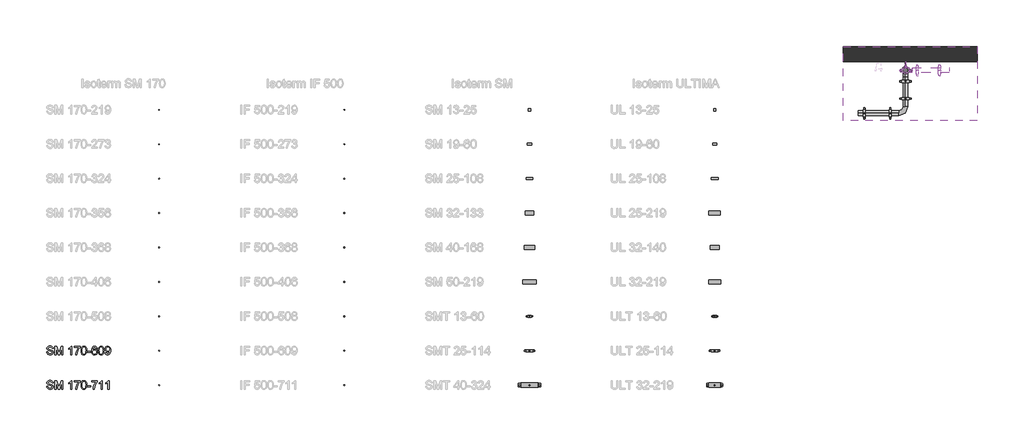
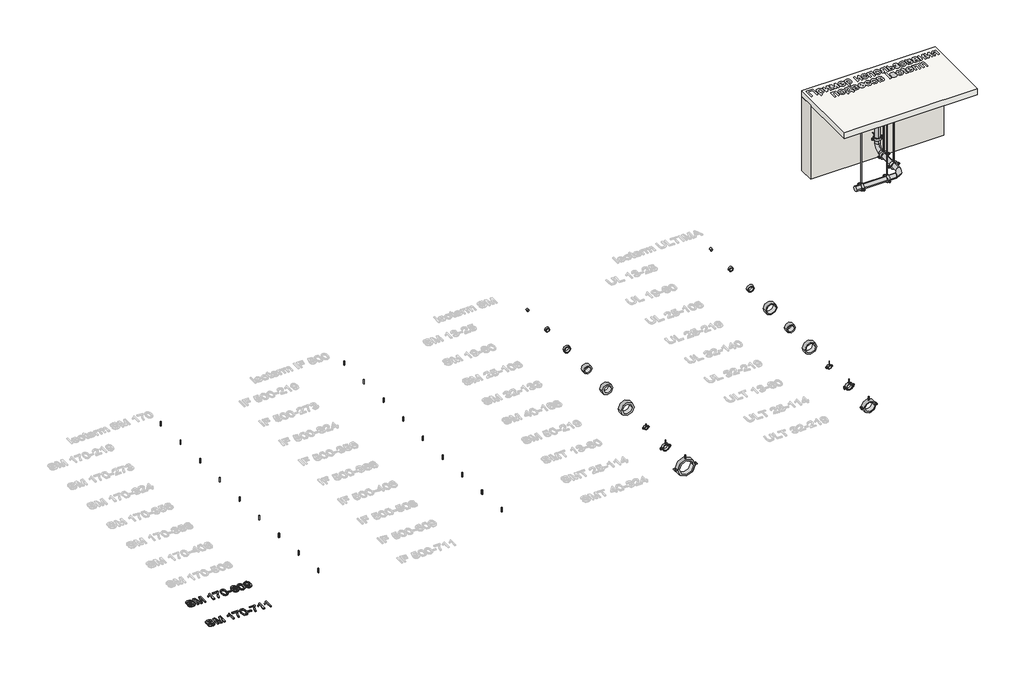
# One storey, part 1 of 10: 61 pipe fittings, 4 pipe segments, 2 proxies, 1 slab, 1 wall.
"""IFC4 building model written with IfcOpenShell, lengths in millimetres."""

from ifc_helpers import new_model, si_unit, point, frame, frame_2d, origin, origin_with_axes, place, context, project, spatial, polyline, circle_curve, trimmed, segment, composite_curve, outline, extrude, transform, mapped, element, save
from components import pipe_fitting_ea1120f8, pipe_fitting_9cc99f1b, pipe_fitting_f6f02d7e, pipe_fitting_10d38b48, pipe_fitting_dd198770, pipe_fitting_62ef14bb, pipe_fitting_85ec1d97, pipe_fitting_9936371b, pipe_fitting_645a91ac, pipe_fitting_05f07e14, pipe_fitting_db2d8663, pipe_fitting_be9057e6, pipe_fitting_1aa2fc2b, pipe_fitting_67ac7dcb, pipe_fitting_62d414c1, pipe_fitting_6f64aa49, pipe_fitting_854d4d4e, pipe_fitting_7255cf2c, pipe_fitting_8510a795, pipe_fitting_4c9d8eb7, pipe_fitting_b5d57670, pipe_fitting_b7a03728, pipe_fitting_ec2c8cdd

model = new_model("IFC4")

# Units and contexts
model_context = context("Model", 3, world=origin())
ifc_project = project(units=[si_unit("LENGTHUNIT", "METRE", prefix="MILLI")], contexts=[model_context])

# Site, building, storey
site = spatial("IfcSite", under=ifc_project)
building = spatial("IfcBuilding", under=site)
storey = spatial("IfcBuildingStorey", under=building, Name="Этаж 01", Elevation=0.0)

# Proxies
placement = place(None, origin())
element("IfcBuildingElementProxy", 1, Name="200 мм Arial", ObjectType="200 мм Arial", at=placement, inside=storey, context=model_context, shape_type="SweptSolid", body=[
    extrude(outline(polyline([(362.1098597, -6325.9144615), (387.2239373, -6325.9144615), (395.3173412, -6351.0530645), (403.4475333, -6359.9435461), (415.084867, -6366.9455667), (429.3096375, -6371.4889093), (445.2021397, -6373.0033569), (471.4443887, -6368.4170947), (488.3914859, -6355.811005), (493.9587668, -6338.9620096), (489.7894375, -6323.2902366), (483.4373417, -6317.091425), (472.7197129, -6311.8858947), (436.1522426, -6302.2964374), (396.7888691, -6289.9110769), (384.2870127, -6281.4620537), (375.427188, -6271.2226715), (370.1480813, -6259.4136595), (368.3883791, -6246.2557468), (370.5650143, -6231.5465984), (377.0949197, -6217.8307313), (387.8064171, -6206.2056603), (402.5278283, -6197.7688998), (420.1984268, -6192.636946), (439.7574862, -6190.9262947), (460.9474891, -6192.7166538), (479.4887417, -6198.0877309), (494.7190563, -6206.9291615), (505.9762453, -6219.130581), (513.1008933, -6233.9317), (515.9335846, -6250.5722289), (490.8195071, -6250.5722289), (486.2087194, -6235.5871689), (476.5947366, -6224.7714383), (461.5728885, -6218.2231388), (440.7385048, -6216.0403723), (419.4136118, -6218.1986133), (404.7841712, -6224.6733364), (396.3228853, -6234.2014801), (393.5024567, -6245.5199828), (395.5012822, -6255.1707538), (401.4977587, -6262.9330639), (415.6734782, -6269.8737709), (442.5043384, -6276.9616307), (486.9444834, -6289.5677204), (501.2612244, -6298.6789311), (511.2492206, -6309.9238574), (517.1169384, -6323.179872), (519.0728443, -6338.3243475), (516.8226328, -6353.8060481), (510.0719982, -6368.3680437), (499.096852, -6380.900557), (484.1731057, -6390.2938107), (466.2265957, -6396.1615285), (446.1831584, -6398.1174344), (421.5779843, -6396.0082443), (401.3260804, -6389.680674), (385.1944549, -6379.110198), (372.9501159, -6364.2722909), (365.0897039, -6346.1970222), (362.1098597, -6325.9144615)])), origin_with_axes(), (0.0, 0.0, 1.0), 20.0),
    extrude(outline(polyline([(556.7439606, -6394.9781747), (556.7439606, -6194.0655544), (599.9578323, -6194.0655544), (641.0625139, -6335.6755971), (649.3521216, -6365.2533095), (658.3284422, -6333.2230505), (698.7464108, -6194.0655544), (741.9602825, -6194.0655544), (741.9602825, -6394.9781747), (716.8462049, -6394.9781747), (716.8462049, -6219.179632), (666.3727952, -6394.9781747), (632.3314479, -6394.9781747), (581.8580382, -6219.179632), (581.8580382, -6394.9781747), (556.7439606, -6394.9781747)])), origin_with_axes(), (0.0, 0.0, 1.0), 20.0),
    extrude(outline(polyline([(949.1514222, -6394.9781747), (924.0373446, -6394.9781747), (924.0373446, -6238.4075976), (900.2476423, -6255.3546948), (873.8091896, -6268.0343609), (873.8091896, -6244.2937095), (910.6219145, -6220.7983127), (924.0925269, -6207.2234671), (932.9646144, -6194.0655544), (949.1514222, -6194.0655544), (949.1514222, -6394.9781747)])), origin_with_axes(), (0.0, 0.0, 1.0), 20.0),
    extrude(outline(polyline([(1008.7973563, -6222.3188917), (1008.7973563, -6197.2048141), (1140.6462634, -6197.2048141), (1140.6462634, -6217.5119003), (1121.8536248, -6241.2954712), (1103.2449272, -6271.5415026), (1086.8312589, -6305.4908794), (1074.623708, -6340.3844866), (1065.3040308, -6394.9781747), (1040.1899532, -6394.9781747), (1042.9061486, -6369.091545), (1050.171818, -6338.3243475), (1061.7907577, -6305.7116086), (1077.566764, -6274.2883548), (1095.9853892, -6245.8817334), (1115.5321859, -6222.3188917), (1008.7973563, -6222.3188917)])), origin_with_axes(), (0.0, 0.0, 1.0), 20.0),
    extrude(outline(polyline([(1162.6210812, -6296.1405454), (1164.4666226, -6263.9815276), (1170.0032466, -6238.3340212), (1179.175771, -6218.8056186), (1191.9290135, -6205.0039124), (1208.3549446, -6196.8001439), (1228.5455348, -6194.0655544), (1244.021104, -6195.6842352), (1257.8779925, -6200.5402775), (1269.4662754, -6208.4436091), (1278.1360277, -6219.2041574), (1289.9082516, -6248.9290226), (1294.4699883, -6296.1405454), (1292.6428411, -6328.1156221), (1287.1613993, -6353.7018149), (1278.0440572, -6373.2486115), (1265.3092088, -6387.1055), (1248.8464895, -6395.3644508), (1228.5455348, -6398.1174344), (1202.4504386, -6393.3349685), (1182.6338618, -6378.9875707), (1173.8782703, -6363.8584236), (1167.6242764, -6345.007537), (1162.6210812, -6296.1405454)]), holes=[polyline([(1187.7351588, -6296.0914944), (1190.6782147, -6335.5958893), (1199.5073826, -6358.4597553), (1212.6530326, -6369.3674565), (1228.5455348, -6373.0033569), (1244.438037, -6369.3551938), (1257.5836869, -6358.4107044), (1266.4128548, -6335.5345757), (1269.3559108, -6296.0914944), (1266.5109567, -6257.4761477), (1257.9760944, -6234.434472), (1244.8549699, -6222.993342), (1228.2512292, -6219.179632), (1212.5304052, -6222.5396209), (1199.8997901, -6232.6195875), (1190.7763166, -6257.0960029), (1187.7351588, -6296.0914944)])]), origin_with_axes(), (0.0, 0.0, 1.0), 20.0),
    extrude(outline(polyline([(1310.1662868, -6335.3322406), (1310.1662868, -6310.218163), (1388.6477791, -6310.218163), (1388.6477791, -6335.3322406), (1310.1662868, -6335.3322406)])), origin_with_axes(), (0.0, 0.0, 1.0), 20.0),
    extrude(outline(polyline([(1539.3322443, -6247.4329692), (1514.2181668, -6250.5722289), (1504.7022858, -6229.6274806), (1493.3102067, -6221.7915941), (1479.5391573, -6219.179632), (1456.8776264, -6225.2619476), (1447.4414533, -6234.8697991), (1439.7343255, -6248.0951568), (1434.5287952, -6266.8019562), (1432.5974148, -6292.8541329), (1442.6712501, -6281.1003031), (1454.7439109, -6272.8168269), (1468.1409469, -6267.9056022), (1482.1879077, -6266.2685273), (1505.3889989, -6270.744425), (1524.8622192, -6284.1721178), (1538.0691828, -6304.6876704), (1542.471504, -6330.4271473), (1540.3991021, -6348.4104455), (1534.1818964, -6365.0816312), (1524.3349216, -6379.2205626), (1511.3732127, -6389.6070976), (1495.8853807, -6395.9898502), (1478.4600368, -6398.1174344), (1449.9675763, -6392.4765772), (1427.2753886, -6375.5540054), (1418.6163661, -6362.4451436), (1412.4313501, -6345.6819874), (1407.4833372, -6301.1927914), (1412.9770417, -6251.1731028), (1419.8441723, -6232.0953557), (1429.4581551, -6216.97234), (1439.8784126, -6206.9506213), (1451.9602704, -6199.7922508), (1481.1087872, -6194.0655544), (1503.1449187, -6197.6094843), (1520.7909917, -6208.241274), (1533.1518268, -6225.1270576), (1539.3322443, -6247.4329692)]), holes=[polyline([(1432.5974148, -6330.0347398), (1438.4099503, -6351.7888285), (1453.8609941, -6367.5832288), (1476.4979995, -6373.0033569), (1493.0710834, -6370.195191), (1506.1002374, -6361.7706933), (1514.5431292, -6348.5269415), (1517.3574265, -6331.2610132), (1514.5799174, -6314.6879293), (1506.2473902, -6302.0511827), (1492.997507, -6294.0497493), (1475.4679299, -6291.3826049), (1458.9193715, -6294.0497493), (1445.0808771, -6302.0511827), (1435.7182804, -6314.3813609), (1432.5974148, -6330.0347398)])]), origin_with_axes(), (0.0, 0.0, 1.0), 20.0),
    extrude(outline(polyline([(1564.4463218, -6296.1405454), (1566.2918632, -6263.9815276), (1571.8284872, -6238.3340212), (1581.0010116, -6218.8056186), (1593.7542541, -6205.0039124), (1610.1801852, -6196.8001439), (1630.3707754, -6194.0655544), (1645.8463446, -6195.6842352), (1659.7032331, -6200.5402775), (1671.291516, -6208.4436091), (1679.9612683, -6219.2041574), (1691.7334922, -6248.9290226), (1696.2952289, -6296.1405454), (1694.4680817, -6328.1156221), (1688.9866399, -6353.7018149), (1679.8692978, -6373.2486115), (1667.1344494, -6387.1055), (1650.6717301, -6395.3644508), (1630.3707754, -6398.1174344), (1604.2756792, -6393.3349685), (1584.4591024, -6378.9875707), (1575.7035109, -6363.8584236), (1569.449517, -6345.007537), (1564.4463218, -6296.1405454)]), holes=[polyline([(1589.5603994, -6296.0914944), (1592.5034553, -6335.5958893), (1601.3326232, -6358.4597553), (1614.4782732, -6369.3674565), (1630.3707754, -6373.0033569), (1646.2632776, -6369.3551938), (1659.4089275, -6358.4107044), (1668.2380954, -6335.5345757), (1671.1811514, -6296.0914944), (1668.3361973, -6257.4761477), (1659.801335, -6234.434472), (1646.6802105, -6222.993342), (1630.0764698, -6219.179632), (1614.3556458, -6222.5396209), (1601.7250307, -6232.6195875), (1592.6015572, -6257.0960029), (1589.5603994, -6296.0914944)])]), origin_with_axes(), (0.0, 0.0, 1.0), 20.0),
    extrude(outline(polyline([(1721.4093064, -6344.7500196), (1746.523384, -6341.61076), (1750.8153406, -6355.8661873), (1757.8050985, -6365.5721406), (1767.3209794, -6371.1455528), (1779.1913052, -6373.0033569), (1799.5229168, -6368.2208909), (1813.3062288, -6355.443123), (1821.5222601, -6333.6154579), (1825.1520291, -6304.4792039), (1825.0048763, -6299.5741106), (1816.3044671, -6310.1936376), (1804.9185193, -6318.6058725), (1791.6686362, -6324.0873143), (1777.3764206, -6325.9144615), (1754.4757664, -6321.4508266), (1735.4133477, -6308.059922), (1722.555872, -6287.3726911), (1718.2700468, -6261.0200775), (1722.7643385, -6233.7968099), (1736.2472136, -6212.4596542), (1756.4991174, -6198.6640794), (1781.3004953, -6194.0655544), (1800.0318202, -6196.6897793), (1817.0831507, -6204.562454), (1831.3447093, -6217.2911711), (1841.7067189, -6234.483523), (1848.0158951, -6258.2486999), (1850.1189538, -6290.6958918), (1848.0220264, -6325.0989897), (1841.7312443, -6351.6907266), (1831.3017898, -6371.6728503), (1816.7888451, -6386.2471087), (1798.8178096, -6395.149853), (1778.0140828, -6398.1174344), (1756.542037, -6394.6164241), (1739.4109987, -6384.1133931), (1727.4303084, -6367.2705291), (1721.4093064, -6344.7500196)]), holes=[polyline([(1825.0048763, -6260.4314664), (1822.2948123, -6243.4107927), (1814.1646202, -6230.3141937), (1801.5462677, -6221.9632724), (1785.3717227, -6219.179632), (1768.5963037, -6222.1778702), (1755.1563481, -6231.172585), (1746.3271802, -6244.937503), (1743.3841243, -6262.2463509), (1746.1677647, -6277.7648397), (1754.518686, -6290.0827552), (1767.6275478, -6298.1209768), (1784.6850096, -6300.800384), (1800.730796, -6298.1209768), (1813.6495854, -6290.0827552), (1822.1660536, -6277.3111186), (1825.0048763, -6260.4314664)])]), origin_with_axes(), (0.0, 0.0, 1.0), 20.0),
])
element("IfcBuildingElementProxy", 2, Name="200 мм Arial", ObjectType="200 мм Arial", at=placement, inside=storey, context=model_context, shape_type="SweptSolid", body=[
    extrude(outline(polyline([(362.1098597, -7125.9144615), (387.2239373, -7125.9144615), (395.3173412, -7151.0530645), (403.4475333, -7159.9435461), (415.084867, -7166.9455667), (429.3096375, -7171.4889093), (445.2021397, -7173.0033569), (471.4443887, -7168.4170947), (488.3914859, -7155.811005), (493.9587668, -7138.9620096), (489.7894375, -7123.2902366), (483.4373417, -7117.091425), (472.7197129, -7111.8858947), (436.1522426, -7102.2964374), (396.7888691, -7089.9110769), (384.2870127, -7081.4620537), (375.427188, -7071.2226715), (370.1480813, -7059.4136595), (368.3883791, -7046.2557468), (370.5650143, -7031.5465984), (377.0949197, -7017.8307313), (387.8064171, -7006.2056603), (402.5278283, -6997.7688998), (420.1984268, -6992.636946), (439.7574862, -6990.9262947), (460.9474891, -6992.7166538), (479.4887417, -6998.0877309), (494.7190563, -7006.9291615), (505.9762453, -7019.130581), (513.1008933, -7033.9317), (515.9335846, -7050.5722289), (490.8195071, -7050.5722289), (486.2087194, -7035.5871689), (476.5947366, -7024.7714383), (461.5728885, -7018.2231388), (440.7385048, -7016.0403723), (419.4136118, -7018.1986133), (404.7841712, -7024.6733364), (396.3228853, -7034.2014801), (393.5024567, -7045.5199828), (395.5012822, -7055.1707538), (401.4977587, -7062.9330639), (415.6734782, -7069.8737709), (442.5043384, -7076.9616307), (486.9444834, -7089.5677204), (501.2612244, -7098.6789311), (511.2492206, -7109.9238574), (517.1169384, -7123.179872), (519.0728443, -7138.3243475), (516.8226328, -7153.8060481), (510.0719982, -7168.3680437), (499.096852, -7180.900557), (484.1731057, -7190.2938107), (466.2265957, -7196.1615285), (446.1831584, -7198.1174344), (421.5779843, -7196.0082443), (401.3260804, -7189.680674), (385.1944549, -7179.110198), (372.9501159, -7164.2722909), (365.0897039, -7146.1970222), (362.1098597, -7125.9144615)])), origin_with_axes(), (0.0, 0.0, 1.0), 20.0),
    extrude(outline(polyline([(556.7439606, -7194.9781747), (556.7439606, -6994.0655544), (599.9578323, -6994.0655544), (641.0625139, -7135.6755971), (649.3521216, -7165.2533095), (658.3284422, -7133.2230505), (698.7464108, -6994.0655544), (741.9602825, -6994.0655544), (741.9602825, -7194.9781747), (716.8462049, -7194.9781747), (716.8462049, -7019.179632), (666.3727952, -7194.9781747), (632.3314479, -7194.9781747), (581.8580382, -7019.179632), (581.8580382, -7194.9781747), (556.7439606, -7194.9781747)])), origin_with_axes(), (0.0, 0.0, 1.0), 20.0),
    extrude(outline(polyline([(949.1514222, -7194.9781747), (924.0373446, -7194.9781747), (924.0373446, -7038.4075976), (900.2476423, -7055.3546948), (873.8091896, -7068.0343609), (873.8091896, -7044.2937095), (910.6219145, -7020.7983127), (924.0925269, -7007.2234671), (932.9646144, -6994.0655544), (949.1514222, -6994.0655544), (949.1514222, -7194.9781747)])), origin_with_axes(), (0.0, 0.0, 1.0), 20.0),
    extrude(outline(polyline([(1008.7973563, -7022.3188917), (1008.7973563, -6997.2048141), (1140.6462634, -6997.2048141), (1140.6462634, -7017.5119003), (1121.8536248, -7041.2954712), (1103.2449272, -7071.5415026), (1086.8312589, -7105.4908794), (1074.623708, -7140.3844866), (1065.3040308, -7194.9781747), (1040.1899532, -7194.9781747), (1042.9061486, -7169.091545), (1050.171818, -7138.3243475), (1061.7907577, -7105.7116086), (1077.566764, -7074.2883548), (1095.9853892, -7045.8817334), (1115.5321859, -7022.3188917), (1008.7973563, -7022.3188917)])), origin_with_axes(), (0.0, 0.0, 1.0), 20.0),
    extrude(outline(polyline([(1162.6210812, -7096.1405454), (1164.4666226, -7063.9815276), (1170.0032466, -7038.3340212), (1179.175771, -7018.8056186), (1191.9290135, -7005.0039124), (1208.3549446, -6996.8001439), (1228.5455348, -6994.0655544), (1244.021104, -6995.6842352), (1257.8779925, -7000.5402775), (1269.4662754, -7008.4436091), (1278.1360277, -7019.2041574), (1289.9082516, -7048.9290226), (1294.4699883, -7096.1405454), (1292.6428411, -7128.1156221), (1287.1613993, -7153.7018149), (1278.0440572, -7173.2486115), (1265.3092088, -7187.1055), (1248.8464895, -7195.3644508), (1228.5455348, -7198.1174344), (1202.4504386, -7193.3349685), (1182.6338618, -7178.9875707), (1173.8782703, -7163.8584236), (1167.6242764, -7145.007537), (1162.6210812, -7096.1405454)]), holes=[polyline([(1187.7351588, -7096.0914944), (1190.6782147, -7135.5958893), (1199.5073826, -7158.4597553), (1212.6530326, -7169.3674565), (1228.5455348, -7173.0033569), (1244.438037, -7169.3551938), (1257.5836869, -7158.4107044), (1266.4128548, -7135.5345757), (1269.3559108, -7096.0914944), (1266.5109567, -7057.4761477), (1257.9760944, -7034.434472), (1244.8549699, -7022.993342), (1228.2512292, -7019.179632), (1212.5304052, -7022.5396209), (1199.8997901, -7032.6195875), (1190.7763166, -7057.0960029), (1187.7351588, -7096.0914944)])]), origin_with_axes(), (0.0, 0.0, 1.0), 20.0),
    extrude(outline(polyline([(1310.1662868, -7135.3322406), (1310.1662868, -7110.218163), (1388.6477791, -7110.218163), (1388.6477791, -7135.3322406), (1310.1662868, -7135.3322406)])), origin_with_axes(), (0.0, 0.0, 1.0), 20.0),
    extrude(outline(polyline([(1410.6225969, -7022.3188917), (1410.6225969, -6997.2048141), (1542.471504, -6997.2048141), (1542.471504, -7017.5119003), (1523.6788654, -7041.2954712), (1505.0701678, -7071.5415026), (1488.6564995, -7105.4908794), (1476.4489486, -7140.3844866), (1467.1292714, -7194.9781747), (1442.0151938, -7194.9781747), (1444.7313892, -7169.091545), (1451.9970586, -7138.3243475), (1463.6159983, -7105.7116086), (1479.3920045, -7074.2883548), (1497.8106298, -7045.8817334), (1517.3574265, -7022.3188917), (1410.6225969, -7022.3188917)])), origin_with_axes(), (0.0, 0.0, 1.0), 20.0),
    extrude(outline(polyline([(1658.6241126, -7194.9781747), (1633.5100351, -7194.9781747), (1633.5100351, -7038.4075976), (1609.7203327, -7055.3546948), (1583.28188, -7068.0343609), (1583.28188, -7044.2937095), (1620.094605, -7020.7983127), (1633.5652174, -7007.2234671), (1642.4373048, -6994.0655544), (1658.6241126, -6994.0655544), (1658.6241126, -7194.9781747)])), origin_with_axes(), (0.0, 0.0, 1.0), 20.0),
    extrude(outline(polyline([(1812.4478375, -7194.9781747), (1787.33376, -7194.9781747), (1787.33376, -7038.4075976), (1763.5440576, -7055.3546948), (1737.1056049, -7068.0343609), (1737.1056049, -7044.2937095), (1773.9183299, -7020.7983127), (1787.3889423, -7007.2234671), (1796.2610297, -6994.0655544), (1812.4478375, -6994.0655544), (1812.4478375, -7194.9781747)])), origin_with_axes(), (0.0, 0.0, 1.0), 20.0),
])

# Pipe fittings
pipe_fitting_shape = pipe_fitting_ea1120f8(model_context)
element("IfcPipeFitting", 3, ObjectType="СТ_Вл-3D_Подсчет_Шпилька : СТ_Вл-3D_Подсчет_Шпилька", at=placement, inside=storey, context=model_context, shape_type="MappedRepresentation", body=[
    mapped(pipe_fitting_shape, transform((2975.1272826, -700.0, 139.5), x_axis=(0.0, 1.0, 0.0), y_axis=(-1.0, 0.0, 0.0), z_axis=(0.0, 0.0, 1.0))),
])
element("IfcPipeFitting", 4, ObjectType="СТ_Вл-3D_Подсчет_Шпилька : СТ_Вл-3D_Подсчет_Шпилька", at=placement, inside=storey, context=model_context, shape_type="MappedRepresentation", body=[
    mapped(pipe_fitting_shape, transform((2975.1272826, -1500.0, 166.5), x_axis=(0.0, 1.0, 0.0), y_axis=(-1.0, 0.0, 0.0), z_axis=(0.0, 0.0, 1.0))),
])
element("IfcPipeFitting", 5, ObjectType="СТ_Вл-3D_Подсчет_Шпилька : СТ_Вл-3D_Подсчет_Шпилька", at=placement, inside=storey, context=model_context, shape_type="MappedRepresentation", body=[
    mapped(pipe_fitting_shape, transform((7275.1272826, -700.0, 139.5), x_axis=(0.0, 1.0, 0.0), y_axis=(-1.0, 0.0, 0.0), z_axis=(0.0, 0.0, 1.0))),
])
element("IfcPipeFitting", 6, ObjectType="СТ_Вл-3D_Подсчет_Шпилька : СТ_Вл-3D_Подсчет_Шпилька", at=placement, inside=storey, context=model_context, shape_type="MappedRepresentation", body=[
    mapped(pipe_fitting_shape, transform((7275.1272826, -1500.0, 166.5), x_axis=(0.0, 1.0, 0.0), y_axis=(-1.0, 0.0, 0.0), z_axis=(0.0, 0.0, 1.0))),
])
element("IfcPipeFitting", 7, ObjectType="СТ_Вл-3D_Подсчет_Шпилька : СТ_Вл-3D_Подсчет_Шпилька", at=placement, inside=storey, context=model_context, shape_type="MappedRepresentation", body=[
    mapped(pipe_fitting_shape, transform((11575.1272826, -6300.0, 69.5), x_axis=(0.0, 1.0, 0.0), y_axis=(-1.0, 0.0, 0.0), z_axis=(0.0, 0.0, 1.0))),
])
element("IfcPipeFitting", 8, ObjectType="СТ_Вл-3D_Подсчет_Шпилька : СТ_Вл-3D_Подсчет_Шпилька", at=placement, inside=storey, context=model_context, shape_type="MappedRepresentation", body=[
    mapped(pipe_fitting_shape, transform((15875.1272826, -6300.0, 69.5), x_axis=(0.0, 1.0, 0.0), y_axis=(-1.0, 0.0, 0.0), z_axis=(0.0, 0.0, 1.0))),
])
pipe_fitting_2_shape = pipe_fitting_9cc99f1b(model_context)
element("IfcPipeFitting", 9, ObjectType="СТ_Вл-3D_Подсчет_Шпилька : СТ_Вл-3D_Подсчет_Шпилька", at=placement, inside=storey, context=model_context, shape_type="MappedRepresentation", body=[
    mapped(pipe_fitting_2_shape, transform((2975.1272826, -2300.0, 192.0), x_axis=(0.0, 1.0, 0.0), y_axis=(-1.0, 0.0, 0.0), z_axis=(0.0, 0.0, 1.0))),
])
element("IfcPipeFitting", 10, ObjectType="СТ_Вл-3D_Подсчет_Шпилька : СТ_Вл-3D_Подсчет_Шпилька", at=placement, inside=storey, context=model_context, shape_type="MappedRepresentation", body=[
    mapped(pipe_fitting_2_shape, transform((2975.1272826, -3100.0, 208.0), x_axis=(0.0, 1.0, 0.0), y_axis=(-1.0, 0.0, 0.0), z_axis=(0.0, 0.0, 1.0))),
])
element("IfcPipeFitting", 11, ObjectType="СТ_Вл-3D_Подсчет_Шпилька : СТ_Вл-3D_Подсчет_Шпилька", at=placement, inside=storey, context=model_context, shape_type="MappedRepresentation", body=[
    mapped(pipe_fitting_2_shape, transform((2975.1272826, -3900.0, 214.0), x_axis=(0.0, 1.0, 0.0), y_axis=(-1.0, 0.0, 0.0), z_axis=(0.0, 0.0, 1.0))),
])
element("IfcPipeFitting", 12, ObjectType="СТ_Вл-3D_Подсчет_Шпилька : СТ_Вл-3D_Подсчет_Шпилька", at=placement, inside=storey, context=model_context, shape_type="MappedRepresentation", body=[
    mapped(pipe_fitting_2_shape, transform((7275.1272826, -2300.0, 192.0), x_axis=(0.0, 1.0, 0.0), y_axis=(-1.0, 0.0, 0.0), z_axis=(0.0, 0.0, 1.0))),
])
element("IfcPipeFitting", 13, ObjectType="СТ_Вл-3D_Подсчет_Шпилька : СТ_Вл-3D_Подсчет_Шпилька", at=placement, inside=storey, context=model_context, shape_type="MappedRepresentation", body=[
    mapped(pipe_fitting_2_shape, transform((7275.1272826, -3100.0, 208.0), x_axis=(0.0, 1.0, 0.0), y_axis=(-1.0, 0.0, 0.0), z_axis=(0.0, 0.0, 1.0))),
])
element("IfcPipeFitting", 14, ObjectType="СТ_Вл-3D_Подсчет_Шпилька : СТ_Вл-3D_Подсчет_Шпилька", at=placement, inside=storey, context=model_context, shape_type="MappedRepresentation", body=[
    mapped(pipe_fitting_2_shape, transform((7275.1272826, -3900.0, 214.0), x_axis=(0.0, 1.0, 0.0), y_axis=(-1.0, 0.0, 0.0), z_axis=(0.0, 0.0, 1.0))),
])
element("IfcPipeFitting", 15, ObjectType="СТ_Вл-3D_Подсчет_Шпилька : СТ_Вл-3D_Подсчет_Шпилька", at=placement, inside=storey, context=model_context, shape_type="MappedRepresentation", body=[
    mapped(pipe_fitting_2_shape, transform((11575.1272826, -7100.0, 182.0), x_axis=(0.0, 1.0, 0.0), y_axis=(-1.0, 0.0, 0.0), z_axis=(0.0, 0.0, 1.0))),
])
element("IfcPipeFitting", 16, ObjectType="СТ_Вл-3D_Подсчет_Шпилька : СТ_Вл-3D_Подсчет_Шпилька", at=placement, inside=storey, context=model_context, shape_type="MappedRepresentation", body=[
    mapped(pipe_fitting_2_shape, transform((15875.1272826, -7100.0, 125.5), x_axis=(0.0, 1.0, 0.0), y_axis=(-1.0, 0.0, 0.0), z_axis=(0.0, 0.0, 1.0))),
])
pipe_fitting_3_shape = pipe_fitting_f6f02d7e(model_context)
element("IfcPipeFitting", 17, ObjectType="СТ_Вл-3D_Подсчет_Шпилька : СТ_Вл-3D_Подсчет_Шпилька", at=placement, inside=storey, context=model_context, shape_type="MappedRepresentation", body=[
    mapped(pipe_fitting_3_shape, transform((2975.1272826, -4700.0, 233.0), x_axis=(0.0, 1.0, 0.0), y_axis=(-1.0, 0.0, 0.0), z_axis=(0.0, 0.0, 1.0))),
])
element("IfcPipeFitting", 18, ObjectType="СТ_Вл-3D_Подсчет_Шпилька : СТ_Вл-3D_Подсчет_Шпилька", at=placement, inside=storey, context=model_context, shape_type="MappedRepresentation", body=[
    mapped(pipe_fitting_3_shape, transform((2975.1272826, -5500.0, 284.0), x_axis=(0.0, 1.0, 0.0), y_axis=(-1.0, 0.0, 0.0), z_axis=(0.0, 0.0, 1.0))),
])
element("IfcPipeFitting", 19, ObjectType="СТ_Вл-3D_Подсчет_Шпилька : СТ_Вл-3D_Подсчет_Шпилька", at=placement, inside=storey, context=model_context, shape_type="MappedRepresentation", body=[
    mapped(pipe_fitting_3_shape, transform((2975.1272826, -6300.0, 334.5), x_axis=(0.0, 1.0, 0.0), y_axis=(-1.0, 0.0, 0.0), z_axis=(0.0, 0.0, 1.0))),
])
element("IfcPipeFitting", 20, ObjectType="СТ_Вл-3D_Подсчет_Шпилька : СТ_Вл-3D_Подсчет_Шпилька", at=placement, inside=storey, context=model_context, shape_type="MappedRepresentation", body=[
    mapped(pipe_fitting_3_shape, transform((2975.1272826, -7100.0, 385.5), x_axis=(0.0, 1.0, 0.0), y_axis=(-1.0, 0.0, 0.0), z_axis=(0.0, 0.0, 1.0))),
])
element("IfcPipeFitting", 21, ObjectType="СТ_Вл-3D_Подсчет_Шпилька : СТ_Вл-3D_Подсчет_Шпилька", at=placement, inside=storey, context=model_context, shape_type="MappedRepresentation", body=[
    mapped(pipe_fitting_3_shape, transform((7275.1272826, -4700.0, 233.0), x_axis=(0.0, 1.0, 0.0), y_axis=(-1.0, 0.0, 0.0), z_axis=(0.0, 0.0, 1.0))),
])
element("IfcPipeFitting", 22, ObjectType="СТ_Вл-3D_Подсчет_Шпилька : СТ_Вл-3D_Подсчет_Шпилька", at=placement, inside=storey, context=model_context, shape_type="MappedRepresentation", body=[
    mapped(pipe_fitting_3_shape, transform((7275.1272826, -5500.0, 284.0), x_axis=(0.0, 1.0, 0.0), y_axis=(-1.0, 0.0, 0.0), z_axis=(0.0, 0.0, 1.0))),
])
element("IfcPipeFitting", 23, ObjectType="СТ_Вл-3D_Подсчет_Шпилька : СТ_Вл-3D_Подсчет_Шпилька", at=placement, inside=storey, context=model_context, shape_type="MappedRepresentation", body=[
    mapped(pipe_fitting_3_shape, transform((7275.1272826, -6300.0, 334.5), x_axis=(0.0, 1.0, 0.0), y_axis=(-1.0, 0.0, 0.0), z_axis=(0.0, 0.0, 1.0))),
])
element("IfcPipeFitting", 24, ObjectType="СТ_Вл-3D_Подсчет_Шпилька : СТ_Вл-3D_Подсчет_Шпилька", at=placement, inside=storey, context=model_context, shape_type="MappedRepresentation", body=[
    mapped(pipe_fitting_3_shape, transform((7275.1272826, -7100.0, 385.5), x_axis=(0.0, 1.0, 0.0), y_axis=(-1.0, 0.0, 0.0), z_axis=(0.0, 0.0, 1.0))),
])
pipe_fitting_4_shape = pipe_fitting_10d38b48(model_context)
element("IfcPipeFitting", 25, ObjectType="СТ_Подвесы_ДляТруб_IsotermSM_D10-325_СимфонияТепла : Isoterm SM 13-25", at=placement, inside=storey, context=model_context, shape_type="MappedRepresentation", body=[
    mapped(pipe_fitting_4_shape, transform((11575.1272826, -700.0, 0.0), x_axis=(0.0, 1.0, 0.0), y_axis=(-1.0, 0.0, 0.0), z_axis=(0.0, 0.0, 1.0))),
])
pipe_fitting_5_shape = pipe_fitting_dd198770(model_context)
element("IfcPipeFitting", 26, ObjectType="СТ_Подвесы_ДляТруб_IsotermSM_D10-325_СимфонияТепла : Isoterm SM 19-60", at=placement, inside=storey, context=model_context, shape_type="MappedRepresentation", body=[
    mapped(pipe_fitting_5_shape, transform((11575.1272826, -1500.0, 0.0), x_axis=(0.0, 1.0, 0.0), y_axis=(-1.0, 0.0, 0.0), z_axis=(0.0, 0.0, 1.0))),
])
pipe_fitting_6_shape = pipe_fitting_62ef14bb(model_context)
element("IfcPipeFitting", 27, ObjectType="СТ_Подвесы_ДляТруб_IsotermSM_D10-325_СимфонияТепла : Isoterm SM 25-108", at=placement, inside=storey, context=model_context, shape_type="MappedRepresentation", body=[
    mapped(pipe_fitting_6_shape, transform((11575.1272826, -2300.0, 0.0), x_axis=(0.0, 1.0, 0.0), y_axis=(-1.0, 0.0, 0.0), z_axis=(0.0, 0.0, 1.0))),
])
pipe_fitting_7_shape = pipe_fitting_85ec1d97(model_context)
element("IfcPipeFitting", 28, ObjectType="СТ_Подвесы_ДляТруб_IsotermSM_D10-325_СимфонияТепла : Isoterm SM 32-133", at=placement, inside=storey, context=model_context, shape_type="MappedRepresentation", body=[
    mapped(pipe_fitting_7_shape, transform((11575.1272826, -3100.0, 0.0), x_axis=(0.0, 1.0, 0.0), y_axis=(-1.0, 0.0, 0.0), z_axis=(0.0, 0.0, 1.0))),
])
pipe_fitting_8_shape = pipe_fitting_9936371b(model_context)
element("IfcPipeFitting", 29, ObjectType="СТ_Подвесы_ДляТруб_IsotermSM_D10-325_СимфонияТепла : Isoterm SM 40-168", at=placement, inside=storey, context=model_context, shape_type="MappedRepresentation", body=[
    mapped(pipe_fitting_8_shape, transform((11575.1272826, -3900.0, 0.0), x_axis=(0.0, 1.0, 0.0), y_axis=(-1.0, 0.0, 0.0), z_axis=(0.0, 0.0, 1.0))),
])
pipe_fitting_9_shape = pipe_fitting_645a91ac(model_context)
element("IfcPipeFitting", 30, ObjectType="СТ_Подвесы_ДляТруб_IsotermSM_D10-325_СимфонияТепла : Isoterm SM 50-219", at=placement, inside=storey, context=model_context, shape_type="MappedRepresentation", body=[
    mapped(pipe_fitting_9_shape, transform((11575.1272826, -4700.0, 0.0), x_axis=(0.0, 1.0, 0.0), y_axis=(-1.0, 0.0, 0.0), z_axis=(0.0, 0.0, 1.0))),
])
pipe_fitting_10_shape = pipe_fitting_05f07e14(model_context)
element("IfcPipeFitting", 31, ObjectType="СТ_Подвесы_ДляТруб_IsotermSM_D10-325_СимфонияТепла : Isoterm SMT 25-114", at=placement, inside=storey, context=model_context, shape_type="MappedRepresentation", body=[
    mapped(pipe_fitting_10_shape, transform((11575.1272826, -6300.0, 0.0), x_axis=(0.0, 1.0, 0.0), y_axis=(-1.0, 0.0, 0.0), z_axis=(0.0, 0.0, 1.0))),
])
pipe_fitting_11_shape = pipe_fitting_db2d8663(model_context)
element("IfcPipeFitting", 32, ObjectType="СТ_Подвесы_ДляТруб_IsotermSM_D10-325_СимфонияТепла : Isoterm SMT 40-324", at=placement, inside=storey, context=model_context, shape_type="MappedRepresentation", body=[
    mapped(pipe_fitting_11_shape, transform((11575.1272826, -7100.0, 0.0), x_axis=(0.0, 1.0, 0.0), y_axis=(-1.0, 0.0, 0.0), z_axis=(0.0, 0.0, 1.0))),
])
pipe_fitting_12_shape = pipe_fitting_be9057e6(model_context)
element("IfcPipeFitting", 33, ObjectType="СТ_Подвесы_ДляТруб_IsotermSM_D10-325_СимфонияТепла : Isoterm SMT 13-60", at=placement, inside=storey, context=model_context, shape_type="MappedRepresentation", body=[
    mapped(pipe_fitting_12_shape, transform((11575.1272826, -5500.0, 0.0), x_axis=(0.0, 1.0, 0.0), y_axis=(-1.0, 0.0, 0.0), z_axis=(0.0, 0.0, 1.0))),
])
pipe_fitting_13_shape = pipe_fitting_1aa2fc2b(model_context)
element("IfcPipeFitting", 34, ObjectType="СТ_Вл-3D_Подсчет_Шпилька : СТ_Вл-3D_Подсчет_Шпилька", at=placement, inside=storey, context=model_context, shape_type="MappedRepresentation", body=[
    mapped(pipe_fitting_13_shape, transform((11575.1272826, -5500.0, 36.5), x_axis=(0.0, 1.0, 0.0), y_axis=(-1.0, 0.0, 0.0), z_axis=(0.0, 0.0, 1.0))),
])
element("IfcPipeFitting", 35, ObjectType="СТ_Подвесы_ДляТруб_IsotermUltima_D10-219_СимфонияТепла : Isoterm UL 13-25", at=placement, inside=storey, context=model_context, shape_type="MappedRepresentation", body=[
    mapped(pipe_fitting_4_shape, transform((15875.1272826, -700.0, 0.0), x_axis=(0.0, 1.0, 0.0), y_axis=(-1.0, 0.0, 0.0), z_axis=(0.0, 0.0, 1.0))),
])
element("IfcPipeFitting", 36, ObjectType="СТ_Подвесы_ДляТруб_IsotermUltima_D10-219_СимфонияТепла : Isoterm UL 19-60", at=placement, inside=storey, context=model_context, shape_type="MappedRepresentation", body=[
    mapped(pipe_fitting_5_shape, transform((15875.1272826, -1500.0, 0.0), x_axis=(0.0, 1.0, 0.0), y_axis=(-1.0, 0.0, 0.0), z_axis=(0.0, 0.0, 1.0))),
])
element("IfcPipeFitting", 37, ObjectType="СТ_Подвесы_ДляТруб_IsotermUltima_D10-219_СимфонияТепла : Isoterm UL 25-108", at=placement, inside=storey, context=model_context, shape_type="MappedRepresentation", body=[
    mapped(pipe_fitting_6_shape, transform((15875.1272826, -2300.0, 0.0), x_axis=(0.0, 1.0, 0.0), y_axis=(-1.0, 0.0, 0.0), z_axis=(0.0, 0.0, 1.0))),
])
pipe_fitting_14_shape = pipe_fitting_67ac7dcb(model_context)
element("IfcPipeFitting", 38, ObjectType="СТ_Подвесы_ДляТруб_IsotermUltima_D10-219_СимфонияТепла : Isoterm UL 25-219", at=placement, inside=storey, context=model_context, shape_type="MappedRepresentation", body=[
    mapped(pipe_fitting_14_shape, transform((15875.1272826, -3100.0, 0.0), x_axis=(0.0, 1.0, 0.0), y_axis=(-1.0, 0.0, 0.0), z_axis=(0.0, 0.0, 1.0))),
])
pipe_fitting_15_shape = pipe_fitting_62d414c1(model_context)
element("IfcPipeFitting", 39, ObjectType="СТ_Подвесы_ДляТруб_IsotermUltima_D10-219_СимфонияТепла : Isoterm UL 32-140", at=placement, inside=storey, context=model_context, shape_type="MappedRepresentation", body=[
    mapped(pipe_fitting_15_shape, transform((15875.1272826, -3900.0, 0.0), x_axis=(0.0, 1.0, 0.0), y_axis=(-1.0, 0.0, 0.0), z_axis=(0.0, 0.0, 1.0))),
])
pipe_fitting_16_shape = pipe_fitting_6f64aa49(model_context)
element("IfcPipeFitting", 40, ObjectType="СТ_Подвесы_ДляТруб_IsotermUltima_D10-219_СимфонияТепла : Isoterm UL 32-219", at=placement, inside=storey, context=model_context, shape_type="MappedRepresentation", body=[
    mapped(pipe_fitting_16_shape, transform((15875.1272826, -4700.0, 0.0), x_axis=(0.0, 1.0, 0.0), y_axis=(-1.0, 0.0, 0.0), z_axis=(0.0, 0.0, 1.0))),
])
element("IfcPipeFitting", 41, ObjectType="СТ_Подвесы_ДляТруб_IsotermUltima_D10-219_СимфонияТепла : Isoterm ULT 13-60", at=placement, inside=storey, context=model_context, shape_type="MappedRepresentation", body=[
    mapped(pipe_fitting_12_shape, transform((15875.1272826, -5500.0, 0.0), x_axis=(0.0, 1.0, 0.0), y_axis=(-1.0, 0.0, 0.0), z_axis=(0.0, 0.0, 1.0))),
])
element("IfcPipeFitting", 42, ObjectType="СТ_Подвесы_ДляТруб_IsotermUltima_D10-219_СимфонияТепла : Isoterm ULT 25-114", at=placement, inside=storey, context=model_context, shape_type="MappedRepresentation", body=[
    mapped(pipe_fitting_10_shape, transform((15875.1272826, -6300.0, 0.0), x_axis=(0.0, 1.0, 0.0), y_axis=(-1.0, 0.0, 0.0), z_axis=(0.0, 0.0, 1.0))),
])
pipe_fitting_17_shape = pipe_fitting_854d4d4e(model_context)
element("IfcPipeFitting", 43, ObjectType="СТ_Подвесы_ДляТруб_IsotermUltima_D10-219_СимфонияТепла : Isoterm ULT 32-219", at=placement, inside=storey, context=model_context, shape_type="MappedRepresentation", body=[
    mapped(pipe_fitting_17_shape, transform((15875.1272826, -7100.0, 0.0), x_axis=(0.0, 1.0, 0.0), y_axis=(-1.0, 0.0, 0.0), z_axis=(0.0, 0.0, 1.0))),
])
pipe_fitting_18_shape = pipe_fitting_7255cf2c(model_context)
element("IfcPipeFitting", 44, ObjectType="СТ_Вл-3D_Подсчет_Шпилька : СТ_Вл-3D_Подсчет_Шпилька", at=placement, inside=storey, context=model_context, shape_type="MappedRepresentation", body=[
    mapped(pipe_fitting_18_shape, transform((15875.1272826, -5500.0, 36.5), x_axis=(0.0, 1.0, 0.0), y_axis=(-1.0, 0.0, 0.0), z_axis=(0.0, 0.0, 1.0))),
])
pipe_fitting_19_shape = pipe_fitting_8510a795(model_context)
element("IfcPipeFitting", 45, ObjectType="ADSK_ДетальСтальнаяСварная_Отвод_ГОСТ17375-2001 : Исполнение 1_Оцинкованные", at=placement, inside=storey, context=model_context, shape_type="MappedRepresentation", body=[
    mapped(pipe_fitting_19_shape, transform((20306.4493851, -780.5652371, 380.0), x_axis=(1.0, 0.0, 0.0), y_axis=(0.0, 1.0, 0.0), z_axis=(0.0, 0.0, 1.0))),
])
element("IfcPipeFitting", 46, ObjectType="ADSK_ДетальСтальнаяСварная_Отвод_ГОСТ17375-2001 : Исполнение 1_Оцинкованные", at=placement, inside=storey, context=model_context, shape_type="MappedRepresentation", body=[
    mapped(pipe_fitting_19_shape, transform((20306.4493851, 219.4347629, 380.0), x_axis=(0.0, 1.0, 0.0), y_axis=(0.0, 0.0, 1.0), z_axis=(1.0, 0.0, 0.0))),
])
element("IfcPipeFitting", 47, ObjectType="ADSK_ДетальСтальнаяСварная_Отвод_ГОСТ17375-2001 : Исполнение 1_Оцинкованные", at=placement, inside=storey, context=model_context, shape_type="MappedRepresentation", body=[
    mapped(pipe_fitting_19_shape, transform((20306.4493851, 219.4347629, 1660.0), x_axis=(0.0, 0.0, 1.0), y_axis=(1.0, 0.0, 0.0), z_axis=(0.0, 1.0, 0.0))),
])
pipe_fitting_20_shape = pipe_fitting_4c9d8eb7(model_context)
element("IfcPipeFitting", 48, ObjectType="СТ_Вл-3D_Подсчет_Шпилька : СТ_Вл-3D_Подсчет_Шпилька", at=placement, inside=storey, context=model_context, shape_type="MappedRepresentation", body=[
    mapped(pipe_fitting_20_shape, transform((20577.1970855, 219.4347629, 1733.0), x_axis=(1.0, 0.0, 0.0), y_axis=(0.0, 1.0, 0.0), z_axis=(0.0, 0.0, 1.0))),
])
element("IfcPipeFitting", 49, ObjectType="СТ_Вл-3D_Подсчет_Шпилька : СТ_Вл-3D_Подсчет_Шпилька", at=placement, inside=storey, context=model_context, shape_type="MappedRepresentation", body=[
    mapped(pipe_fitting_20_shape, transform((21097.1970855, 219.4347629, 1733.0), x_axis=(1.0, 0.0, 0.0), y_axis=(0.0, 1.0, 0.0), z_axis=(0.0, 0.0, 1.0))),
])
pipe_fitting_21_shape = pipe_fitting_b5d57670(model_context)
element("IfcPipeFitting", 50, ObjectType="СТ_Вл-3D_Подсчет_Шпилька : СТ_Вл-3D_Подсчет_Шпилька", at=placement, inside=storey, context=model_context, shape_type="MappedRepresentation", body=[
    mapped(pipe_fitting_21_shape, transform((19352.1231341, -780.5652371, 453.0), x_axis=(1.0, 0.0, 0.0), y_axis=(0.0, 1.0, 0.0), z_axis=(0.0, 0.0, 1.0))),
])
element("IfcPipeFitting", 51, ObjectType="СТ_Вл-3D_Подсчет_Шпилька : СТ_Вл-3D_Подсчет_Шпилька", at=placement, inside=storey, context=model_context, shape_type="MappedRepresentation", body=[
    mapped(pipe_fitting_21_shape, transform((19952.1231341, -780.5652371, 453.0), x_axis=(1.0, 0.0, 0.0), y_axis=(0.0, 1.0, 0.0), z_axis=(0.0, 0.0, 1.0))),
])
element("IfcPipeFitting", 52, ObjectType="СТ_Вл-3D_Подсчет_Шпилька : СТ_Вл-3D_Подсчет_Шпилька", at=placement, inside=storey, context=model_context, shape_type="MappedRepresentation", body=[
    mapped(pipe_fitting_21_shape, transform((20306.4493851, -39.6124747, 453.0), x_axis=(0.0, -1.0, 0.0), y_axis=(1.0, 0.0, 0.0), z_axis=(0.0, 0.0, 1.0))),
])
element("IfcPipeFitting", 53, ObjectType="СТ_Вл-3D_Подсчет_Шпилька : СТ_Вл-3D_Подсчет_Шпилька", at=placement, inside=storey, context=model_context, shape_type="MappedRepresentation", body=[
    mapped(pipe_fitting_21_shape, transform((20306.4493851, -439.6124747, 453.0), x_axis=(0.0, -1.0, 0.0), y_axis=(1.0, 0.0, 0.0), z_axis=(0.0, 0.0, 1.0))),
])
pipe_fitting_22_shape = pipe_fitting_b7a03728(model_context)
element("IfcPipeFitting", 54, ObjectType="СТ_Вл-3D_Подсчет_Шпилька : СТ_Вл-3D_Подсчет_Шпилька", at=placement, inside=storey, context=model_context, shape_type="MappedRepresentation", body=[
    mapped(pipe_fitting_22_shape, transform((20306.4493851, 292.4347629, 660.5297822), x_axis=(0.0, 0.0, 1.0), y_axis=(1.0, 0.0, 0.0), z_axis=(0.0, 1.0, 0.0))),
])
element("IfcPipeFitting", 55, ObjectType="СТ_Вл-3D_Подсчет_Шпилька : СТ_Вл-3D_Подсчет_Шпилька", at=placement, inside=storey, context=model_context, shape_type="MappedRepresentation", body=[
    mapped(pipe_fitting_22_shape, transform((20306.4493851, 292.4347629, 1260.5297822), x_axis=(0.0, 0.0, 1.0), y_axis=(1.0, 0.0, 0.0), z_axis=(0.0, 1.0, 0.0))),
])
pipe_fitting_23_shape = pipe_fitting_ec2c8cdd(model_context)
element("IfcPipeFitting", 56, ObjectType="СТ_Подвесы_ДляТруб_IsotermUltima_D10-219_СимфонияТепла : Isoterm ULT 32-114", at=placement, inside=storey, context=model_context, shape_type="MappedRepresentation", body=[
    mapped(pipe_fitting_23_shape, transform((19352.1231341, -780.5652371, 380.0), x_axis=(1.0, 0.0, 0.0), y_axis=(0.0, 1.0, 0.0), z_axis=(0.0, 0.0, 1.0))),
])
element("IfcPipeFitting", 57, ObjectType="СТ_Подвесы_ДляТруб_IsotermUltima_D10-219_СимфонияТепла : Isoterm ULT 32-114", at=placement, inside=storey, context=model_context, shape_type="MappedRepresentation", body=[
    mapped(pipe_fitting_23_shape, transform((19952.1231341, -780.5652371, 380.0), x_axis=(1.0, 0.0, 0.0), y_axis=(0.0, 1.0, 0.0), z_axis=(0.0, 0.0, 1.0))),
])
element("IfcPipeFitting", 58, ObjectType="СТ_Подвесы_ДляТруб_IsotermUltima_D10-219_СимфонияТепла : Isoterm ULT 32-114", at=placement, inside=storey, context=model_context, shape_type="MappedRepresentation", body=[
    mapped(pipe_fitting_23_shape, transform((20306.4493851, -439.6124747, 380.0), x_axis=(0.0, -1.0, 0.0), y_axis=(1.0, 0.0, 0.0), z_axis=(0.0, 0.0, 1.0))),
])
element("IfcPipeFitting", 59, ObjectType="СТ_Подвесы_ДляТруб_IsotermUltima_D10-219_СимфонияТепла : Isoterm ULT 32-114", at=placement, inside=storey, context=model_context, shape_type="MappedRepresentation", body=[
    mapped(pipe_fitting_23_shape, transform((20306.4493851, -39.6124747, 380.0), x_axis=(0.0, -1.0, 0.0), y_axis=(1.0, 0.0, 0.0), z_axis=(0.0, 0.0, 1.0))),
])
element("IfcPipeFitting", 60, ObjectType="СТ_Подвесы_ДляТруб_IsotermUltima_D10-219_СимфонияТепла : Isoterm ULT 32-114", at=placement, inside=storey, context=model_context, shape_type="MappedRepresentation", body=[
    mapped(pipe_fitting_23_shape, transform((20306.4493851, 219.4347629, 660.5297822), x_axis=(0.0, 0.0, 1.0), y_axis=(1.0, 0.0, 0.0), z_axis=(0.0, 1.0, 0.0))),
])
element("IfcPipeFitting", 61, ObjectType="СТ_Подвесы_ДляТруб_IsotermUltima_D10-219_СимфонияТепла : Isoterm ULT 32-114", at=placement, inside=storey, context=model_context, shape_type="MappedRepresentation", body=[
    mapped(pipe_fitting_23_shape, transform((20306.4493851, 219.4347629, 1260.5297822), x_axis=(0.0, 0.0, 1.0), y_axis=(1.0, 0.0, 0.0), z_axis=(0.0, 1.0, 0.0))),
])
element("IfcPipeFitting", 62, ObjectType="СТ_Подвесы_ДляТруб_IsotermUltima_D10-219_СимфонияТепла : Isoterm ULT 32-114", at=placement, inside=storey, context=model_context, shape_type="MappedRepresentation", body=[
    mapped(pipe_fitting_23_shape, transform((20577.1970855, 219.4347629, 1660.0), x_axis=(1.0, 0.0, 0.0), y_axis=(0.0, 1.0, 0.0), z_axis=(0.0, 0.0, 1.0))),
])
element("IfcPipeFitting", 63, ObjectType="СТ_Подвесы_ДляТруб_IsotermUltima_D10-219_СимфонияТепла : Isoterm ULT 32-114", at=placement, inside=storey, context=model_context, shape_type="MappedRepresentation", body=[
    mapped(pipe_fitting_23_shape, transform((21097.1970855, 219.4347629, 1660.0), x_axis=(1.0, 0.0, 0.0), y_axis=(0.0, 1.0, 0.0), z_axis=(0.0, 0.0, 1.0))),
])

# Pipe segments
element("IfcPipeSegment", 64, ObjectType="ADSK_Стальная водогазопроводная_Оцинкованная_ГОСТ3262-75", at=placement, inside=storey, context=model_context, shape_type="SweptSolid", body=[
    extrude(outline(composite_curve([segment(trimmed(circle_curve(frame_2d((-780.5652371, 380.0)), 57.0), [point((-723.5652371, 380.0))], [point((-780.5652371, 323.0))], False, "CARTESIAN"), True, "CONTINUOUS"), segment(trimmed(circle_curve(frame_2d((-780.5652371, 380.0)), 57.0), [point((-780.5652371, 323.0))], [point((-837.5652371, 380.0))], False, "CARTESIAN"), True, "CONTINUOUS"), segment(trimmed(circle_curve(frame_2d((-780.5652371, 380.0)), 57.0), [point((-837.5652371, 380.0))], [point((-780.5652371, 437.0))], False, "CARTESIAN"), True, "CONTINUOUS"), segment(trimmed(circle_curve(frame_2d((-780.5652371, 380.0)), 57.0), [point((-780.5652371, 437.0))], [point((-723.5652371, 380.0))], False, "CARTESIAN"), True, "CONTINUOUS")], self_intersect=False)), frame((19206.4493851, 0.0, 0.0), z_axis=(1.0, 0.0, 0.0), x_axis=(0.0, 1.0, 0.0)), (0.0, 0.0, 1.0), 948.0),
])
element("IfcPipeSegment", 65, ObjectType="ADSK_Стальная водогазопроводная_Оцинкованная_ГОСТ3262-75", at=placement, inside=storey, context=model_context, shape_type="SweptSolid", body=[
    extrude(outline(composite_curve([segment(trimmed(circle_curve(frame_2d((380.0, 20306.4493851)), 57.0), [point((380.0, 20363.4493851))], [point((437.0, 20306.4493851))], False, "CARTESIAN"), True, "CONTINUOUS"), segment(trimmed(circle_curve(frame_2d((380.0, 20306.4493851)), 57.0), [point((437.0, 20306.4493851))], [point((380.0, 20249.4493851))], False, "CARTESIAN"), True, "CONTINUOUS"), segment(trimmed(circle_curve(frame_2d((380.0, 20306.4493851)), 57.0), [point((380.0, 20249.4493851))], [point((323.0, 20306.4493851))], False, "CARTESIAN"), True, "CONTINUOUS"), segment(trimmed(circle_curve(frame_2d((380.0, 20306.4493851)), 57.0), [point((323.0, 20306.4493851))], [point((380.0, 20363.4493851))], False, "CARTESIAN"), True, "CONTINUOUS")], self_intersect=False)), frame((0.0, -628.5652371, 0.0), z_axis=(0.0, 1.0, 0.0), x_axis=(0.0, 0.0, 1.0)), (0.0, 0.0, 1.0), 696.0),
])
element("IfcPipeSegment", 66, ObjectType="ADSK_Стальная водогазопроводная_Оцинкованная_ГОСТ3262-75", at=placement, inside=storey, context=model_context, shape_type="SweptSolid", body=[
    extrude(outline(composite_curve([segment(trimmed(circle_curve(frame_2d((20306.4493851, 219.4347629)), 57.0), [point((20249.4493851, 219.4347629))], [point((20306.4493851, 276.4347629))], False, "CARTESIAN"), True, "CONTINUOUS"), segment(trimmed(circle_curve(frame_2d((20306.4493851, 219.4347629)), 57.0), [point((20306.4493851, 276.4347629))], [point((20363.4493851, 219.4347629))], False, "CARTESIAN"), True, "CONTINUOUS"), segment(trimmed(circle_curve(frame_2d((20306.4493851, 219.4347629)), 57.0), [point((20363.4493851, 219.4347629))], [point((20306.4493851, 162.4347629))], False, "CARTESIAN"), True, "CONTINUOUS"), segment(trimmed(circle_curve(frame_2d((20306.4493851, 219.4347629)), 57.0), [point((20306.4493851, 162.4347629))], [point((20249.4493851, 219.4347629))], False, "CARTESIAN"), True, "CONTINUOUS")], self_intersect=False)), frame((0.0, 0.0, 532.0), z_axis=(0.0, 0.0, 1.0), x_axis=(1.0, 0.0, 0.0)), (0.0, 0.0, 1.0), 976.0),
])
element("IfcPipeSegment", 67, ObjectType="ADSK_Стальная водогазопроводная_Оцинкованная_ГОСТ3262-75", at=placement, inside=storey, context=model_context, shape_type="SweptSolid", body=[
    extrude(outline(composite_curve([segment(trimmed(circle_curve(frame_2d((219.4347629, 1660.0)), 57.0), [point((162.4347629, 1660.0))], [point((219.4347629, 1717.0))], False, "CARTESIAN"), True, "CONTINUOUS"), segment(trimmed(circle_curve(frame_2d((219.4347629, 1660.0)), 57.0), [point((219.4347629, 1717.0))], [point((276.4347629, 1660.0))], False, "CARTESIAN"), True, "CONTINUOUS"), segment(trimmed(circle_curve(frame_2d((219.4347629, 1660.0)), 57.0), [point((276.4347629, 1660.0))], [point((219.4347629, 1603.0))], False, "CARTESIAN"), True, "CONTINUOUS"), segment(trimmed(circle_curve(frame_2d((219.4347629, 1660.0)), 57.0), [point((219.4347629, 1603.0))], [point((162.4347629, 1660.0))], False, "CARTESIAN"), True, "CONTINUOUS")], self_intersect=False)), frame((20458.4493851, 0.0, 0.0), z_axis=(1.0, 0.0, 0.0), x_axis=(0.0, 1.0, 0.0)), (0.0, 0.0, 1.0), 868.0),
])

# Slab
element("IfcSlab", 68, ObjectType="Типовой 150мм", at=placement, inside=storey, context=model_context, shape_type="SweptSolid", body=[
    extrude(outline(polyline([(21977.1970855, 771.4462434), (21977.1970855, -948.5537566), (18857.1970855, -948.5537566), (18857.1970855, 771.4462434), (21977.1970855, 771.4462434)])), frame((0.0, 0.0, 1850.0), z_axis=(0.0, 0.0, 1.0), x_axis=(1.0, 0.0, 0.0)), (0.0, 0.0, 1.0), 150.0),
])

# Wall
element("IfcWall", 69, ObjectType="Наружный - Кирпич на металлической обрешетке", at=placement, inside=storey, context=model_context, shape_type="SweptSolid", body=[
    extrude(outline(polyline([(21977.1970855, 421.4462434), (18857.1970855, 421.4462434), (18857.1970855, 771.4462434), (21977.1970855, 771.4462434), (21977.1970855, 421.4462434)])), frame((0.0, 0.0, 17.3643744), z_axis=(0.0, 0.0, 1.0), x_axis=(1.0, 0.0, 0.0)), (0.0, 0.0, 1.0), 1832.6356256),
])

save(model, "model.ifc")
